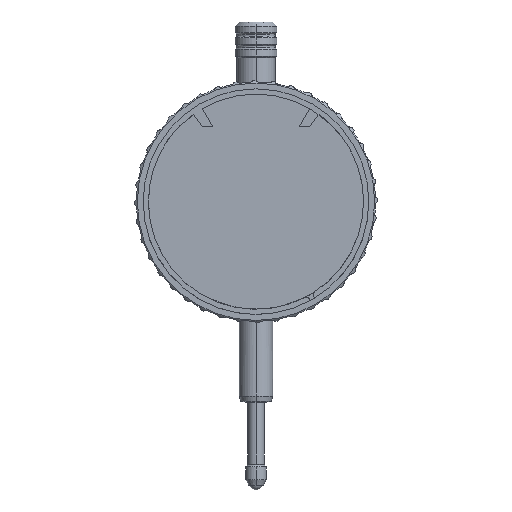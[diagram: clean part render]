
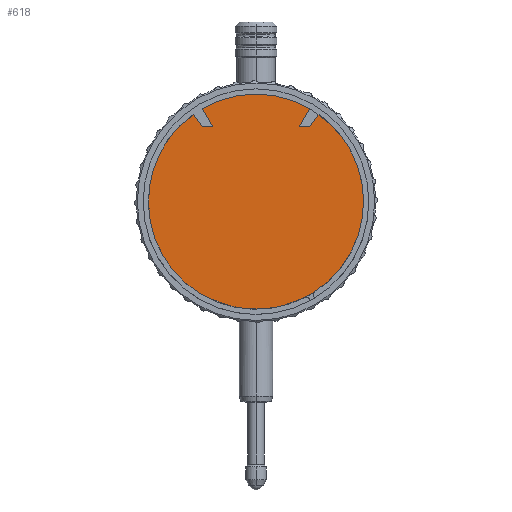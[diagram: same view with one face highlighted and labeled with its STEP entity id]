
A CAD part, front view. The second image highlights one B-rep face of the part: STEP entity #618.
In plain terms, the highlighted planar face has unit normal (0, -1, 0).
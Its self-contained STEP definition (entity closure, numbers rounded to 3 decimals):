
#618=ADVANCED_FACE('',(#1513),#1514,.F.);
#1513=FACE_OUTER_BOUND('',#2683,.T.);
#1514=PLANE('',#2684);
#2683=EDGE_LOOP('',(#4686,#4687,#4688,#4689,#4690,#4691,#4692,#4693,#4694,#4695,#4696,#4697));
#2684=AXIS2_PLACEMENT_3D('',#4698,#4699,#4700);
#4686=ORIENTED_EDGE('',*,*,#7654,.T.);
#4687=ORIENTED_EDGE('',*,*,#7793,.T.);
#4688=ORIENTED_EDGE('',*,*,#7839,.T.);
#4689=ORIENTED_EDGE('',*,*,#7795,.T.);
#4690=ORIENTED_EDGE('',*,*,#7651,.T.);
#4691=ORIENTED_EDGE('',*,*,#7638,.T.);
#4692=ORIENTED_EDGE('',*,*,#7827,.T.);
#4693=ORIENTED_EDGE('',*,*,#7800,.T.);
#4694=ORIENTED_EDGE('',*,*,#7804,.T.);
#4695=ORIENTED_EDGE('',*,*,#7807,.T.);
#4696=ORIENTED_EDGE('',*,*,#7826,.T.);
#4697=ORIENTED_EDGE('',*,*,#7642,.T.);
#4698=CARTESIAN_POINT('',(0.0,-13.3,0.));
#4699=DIRECTION('',(0.0,1.0,0.0));
#4700=DIRECTION('',(-1.0,0.0,0.0));
#7638=EDGE_CURVE('',#9456,#9453,#9457,.T.);
#7642=EDGE_CURVE('',#9464,#9462,#9465,.T.);
#7651=EDGE_CURVE('',#9476,#9456,#9479,.T.);
#7654=EDGE_CURVE('',#9462,#9481,#9484,.T.);
#7793=EDGE_CURVE('',#9481,#9686,#9688,.T.);
#7795=EDGE_CURVE('',#9690,#9476,#9691,.T.);
#7800=EDGE_CURVE('',#9698,#9696,#9699,.T.);
#7804=EDGE_CURVE('',#9696,#9702,#9704,.T.);
#7807=EDGE_CURVE('',#9702,#9706,#9708,.T.);
#7826=EDGE_CURVE('',#9706,#9464,#9735,.T.);
#7827=EDGE_CURVE('',#9453,#9698,#9736,.T.);
#7839=EDGE_CURVE('',#9686,#9690,#9749,.T.);
#9453=VERTEX_POINT('',#13515);
#9456=VERTEX_POINT('',#13519);
#9457=CIRCLE('',#13520,25.75);
#9462=VERTEX_POINT('',#13526);
#9464=VERTEX_POINT('',#13529);
#9465=CIRCLE('',#13530,25.75);
#9476=VERTEX_POINT('',#13543);
#9479=CIRCLE('',#13547,0.875);
#9481=VERTEX_POINT('',#13549);
#9484=CIRCLE('',#13553,0.875);
#9686=VERTEX_POINT('',#13800);
#9688=CIRCLE('',#13803,0.875);
#9690=VERTEX_POINT('',#13805);
#9691=CIRCLE('',#13806,0.875);
#9696=VERTEX_POINT('',#13812);
#9698=VERTEX_POINT('',#13815);
#9699=LINE('',#13816,#13817);
#9702=VERTEX_POINT('',#13821);
#9704=LINE('',#13824,#13825);
#9706=VERTEX_POINT('',#13827);
#9708=LINE('',#13830,#13831);
#9735=CIRCLE('',#13868,25.75);
#9736=CIRCLE('',#13869,25.75);
#9749=CIRCLE('',#13883,27.0);
#13515=CARTESIAN_POINT('',(22.3,-13.3,12.875));
#13519=CARTESIAN_POINT('',(-11.62,-13.3,-22.979));
#13520=AXIS2_PLACEMENT_3D('',#17057,#17058,#17059);
#13526=CARTESIAN_POINT('',(-14.091,-13.3,-21.553));
#13529=CARTESIAN_POINT('',(-22.3,-13.3,-12.875));
#13530=AXIS2_PLACEMENT_3D('',#17065,#17066,#17067);
#13543=CARTESIAN_POINT('',(-12.772,-13.3,-23.323));
#13547=AXIS2_PLACEMENT_3D('',#17083,#17084,#17085);
#13549=CARTESIAN_POINT('',(-13.812,-13.3,-22.723));
#13553=AXIS2_PLACEMENT_3D('',#17087,#17088,#17089);
#13800=CARTESIAN_POINT('',(-14.102,-13.3,-23.025));
#13803=AXIS2_PLACEMENT_3D('',#17292,#17293,#17294);
#13805=CARTESIAN_POINT('',(-12.889,-13.3,-23.725));
#13806=AXIS2_PLACEMENT_3D('',#17295,#17296,#17297);
#13812=CARTESIAN_POINT('',(12.821,-13.3,17.927));
#13815=CARTESIAN_POINT('',(14.979,-13.3,20.945));
#13816=CARTESIAN_POINT('',(6.95,-13.3,9.718));
#13817=VECTOR('',#17303,1.);
#13821=CARTESIAN_POINT('',(10.35,-13.3,17.927));
#13824=CARTESIAN_POINT('',(5.793,-13.3,17.927));
#13825=VECTOR('',#17306,1.0);
#13827=CARTESIAN_POINT('',(12.875,-13.3,22.3));
#13830=CARTESIAN_POINT('',(5.806,-13.3,10.057));
#13831=VECTOR('',#17308,1.);
#13868=AXIS2_PLACEMENT_3D('',#17328,#17329,#17330);
#13869=AXIS2_PLACEMENT_3D('',#17331,#17332,#17333);
#13883=AXIS2_PLACEMENT_3D('',#17350,#17351,#17352);
#17057=CARTESIAN_POINT('',(0.,-13.3,0.));
#17058=DIRECTION('',(0.0,-1.0,0.0));
#17059=DIRECTION('',(0.866,0.0,0.5));
#17065=CARTESIAN_POINT('',(0.,-13.3,0.));
#17066=DIRECTION('',(0.0,-1.0,0.0));
#17067=DIRECTION('',(0.866,0.0,0.5));
#17083=CARTESIAN_POINT('',(-12.015,-13.3,-23.76));
#17084=DIRECTION('',(0.0,1.0,0.0));
#17085=DIRECTION('',(0.866,-0.0,-0.5));
#17087=CARTESIAN_POINT('',(-14.569,-13.3,-22.285));
#17088=DIRECTION('',(0.0,1.0,0.0));
#17089=DIRECTION('',(0.866,-0.0,-0.5));
#17292=CARTESIAN_POINT('',(-14.569,-13.3,-22.285));
#17293=DIRECTION('',(0.0,1.0,0.0));
#17294=DIRECTION('',(0.866,-0.0,-0.5));
#17295=CARTESIAN_POINT('',(-12.015,-13.3,-23.76));
#17296=DIRECTION('',(0.0,1.0,0.0));
#17297=DIRECTION('',(0.866,-0.0,-0.5));
#17303=DIRECTION('',(-0.582,0.0,-0.813));
#17306=DIRECTION('',(-1.0,0.0,0.));
#17308=DIRECTION('',(0.5,0.0,0.866));
#17328=CARTESIAN_POINT('',(0.,-13.3,0.));
#17329=DIRECTION('',(0.0,-1.0,0.0));
#17330=DIRECTION('',(0.866,0.0,0.5));
#17331=CARTESIAN_POINT('',(0.,-13.3,0.));
#17332=DIRECTION('',(0.0,-1.0,0.0));
#17333=DIRECTION('',(0.866,0.0,0.5));
#17350=CARTESIAN_POINT('',(0.0,-13.3,0.));
#17351=DIRECTION('',(0.0,-1.0,0.0));
#17352=DIRECTION('',(-1.0,0.0,0.0));
